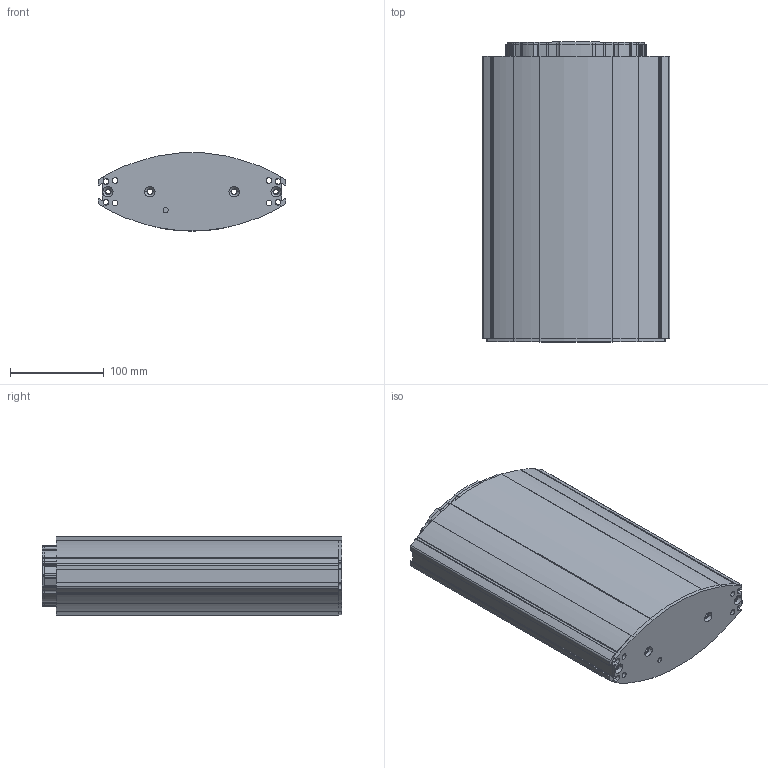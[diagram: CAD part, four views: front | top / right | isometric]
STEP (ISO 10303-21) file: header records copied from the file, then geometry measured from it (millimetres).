
FILE_DESCRIPTION (( 'STEP AP203' ), '1' );
FILE_NAME ('T180-3 EB320 eingefahren.STEP', '2008-11-10T09:48:39', ( 'PC' ), ( 'PC' ), 'SwSTEP 2.0', 'SolidWorks 2007', '' );
FILE_SCHEMA (( 'CONFIG_CONTROL_DESIGN' ));
Length unit declared in the file: millimetre
Products named in the file (9): T180M_Farbm; T180I_Farbm; kopfplatte_Standard; T180-3 EB320 eingefahren; T180A_Farbm; fußplatte_3mm gelasert
Assembly tree (8 placements, depth 3):
  T180-3 EB320 eingefahren
    T180I_Farbm
      T180I_Farbm
      kopfplatte_Standard
    T180A_Farbm
      T180A_Farbm
    fußplatte_3mm gelasert
    T180M_Farbm
      T180M_Farbm
Bounding box: 200 x 320 x 83.46 mm (x, y, z)
Volume: 1290347.1 mm3; surface area: 831600.8 mm2
Topology: 5 solids, 5 shells, 1037 faces, 3073 edges, 2046 vertices
Faces by surface type: cylinder 750, plane 273, cone 14
Entity records: 36607 total; most frequent: DIRECTION 6658, CARTESIAN_POINT 6336, ORIENTED_EDGE 6146, EDGE_CURVE 3073, AXIS2_PLACEMENT_3D 2554, VERTEX_POINT 2046, VECTOR 1550, LINE 1550
